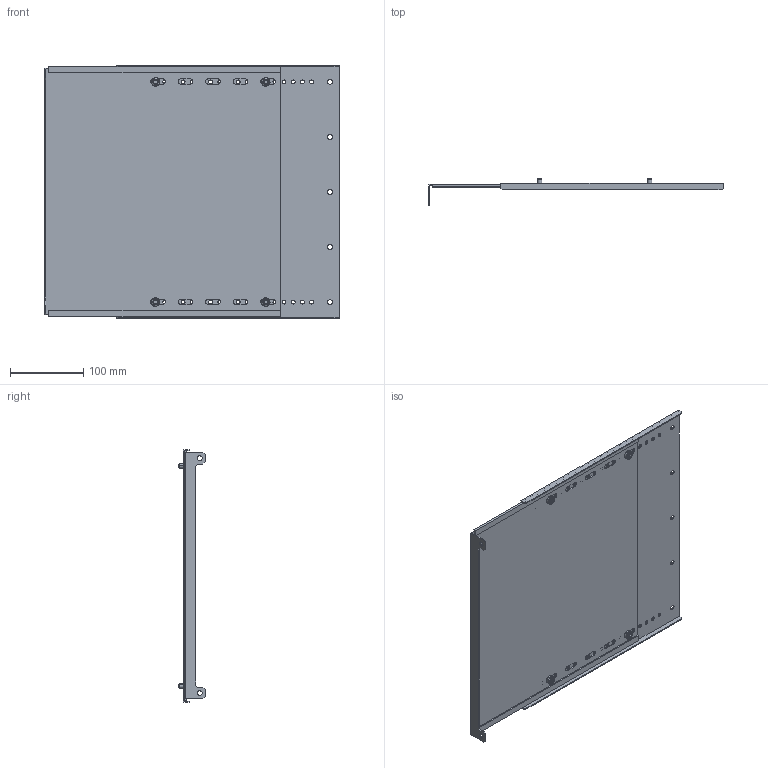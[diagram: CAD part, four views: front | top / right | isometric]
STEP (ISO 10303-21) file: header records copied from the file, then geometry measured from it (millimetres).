
FILE_DESCRIPTION (( 'STEP AP214' ), '1' );
FILE_NAME ('FO-00-SWVB-040-040 Ïåðåãîðîäêà ñåêöèîíèðîâàíèÿ âåðòèêàëüíàÿ äëÿ âåðòèêàëüíîãî øèííîãî îòñåêà 400õ400 ìì â øêàô ãëóáèíîé 800 ìì.STEP', '2025-08-06T13:51:39', ( '' ), ( '' ), 'SwSTEP 2.0', 'SolidWorks 2023', '' );
FILE_SCHEMA (( 'AUTOMOTIVE_DESIGN' ));
Length unit declared in the file: millimetre
Products named in the file (4): Болты М5х400; Перегородка секционирования  400х400; Перегородка секционирования ап 400х400; FO-00-SWVB-040-040 Перегородка секционирования вертикальная для вертикального шинного отсека 400х400 мм в шкаф глубиной 800 мм
Assembly tree (4 placements, depth 2):
  FO-00-SWVB-040-040 Перегородка секционирования вертикальная для вертикального шинного отсека 400х400 мм в шкаф глубиной 800 мм
    Перегородка секционирования ап 400х400
    Перегородка секционирования  400х400
    Болты М5х400  x2
Bounding box: 401.8 x 35.7 x 344.5 mm (x, y, z)
Volume: 341899.9 mm3; surface area: 451022.4 mm2
Topology: 6 solids, 6 shells, 310 faces, 838 edges, 548 vertices
Faces by surface type: cylinder 190, plane 88, cone 16, torus 16
Entity records: 8462 total; most frequent: DIRECTION 1530, CARTESIAN_POINT 1403, ORIENTED_EDGE 1384, EDGE_CURVE 692, AXIS2_PLACEMENT_3D 583, VERTEX_POINT 456, EDGE_LOOP 366, LINE 364
